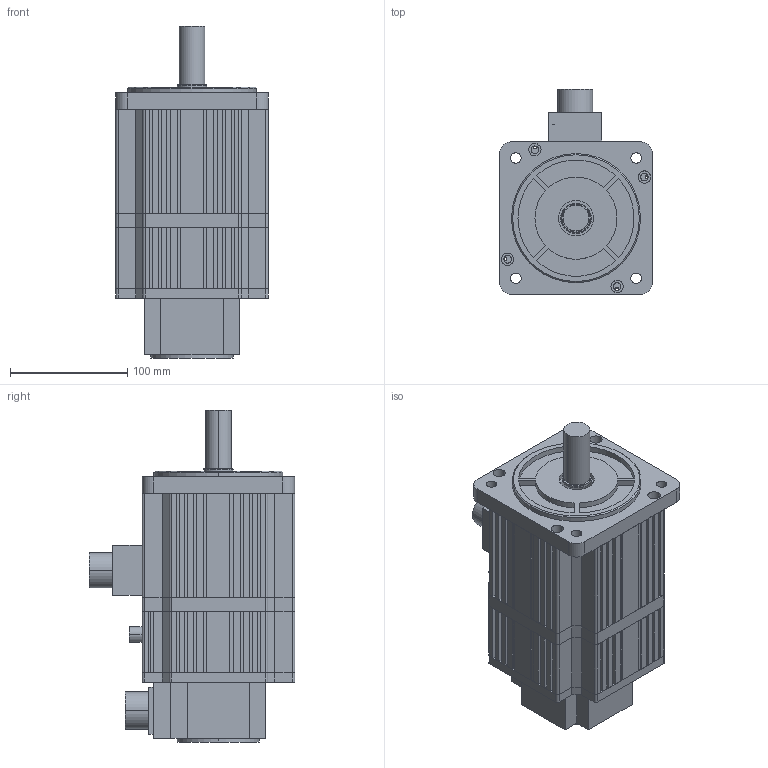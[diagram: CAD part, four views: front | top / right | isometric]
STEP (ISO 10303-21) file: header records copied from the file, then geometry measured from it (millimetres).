
FILE_DESCRIPTION (( 'STEP AP203' ), '1' );
FILE_NAME ('130-04025(湍惕掅).STEP', '2020-03-09T13:55:26', ( '' ), ( '' ), 'SwSTEP 2.0', 'SolidWorks 2016', '' );
FILE_SCHEMA (( 'CONFIG_CONTROL_DESIGN' ));
Length unit declared in the file: millimetre
Products named in the file (12): 130瑤脣; 130粣; 130-04025(湍惕掅); 130隅赽 4籟; 130侜督惕掅傷裔; 130惕掅儂褲; 130晤鎢ん; 130侜督ヶ裔; 130侜督綴裔; 130惕掅蚾饜极; 130瑤脣2; 惕掅芛
Assembly tree (11 placements, depth 3):
  130-04025(湍惕掅)
    130隅赽 4籟
    130侜督ヶ裔
    130侜督綴裔
    130晤鎢ん
    130粣
    130瑤脣2
    130瑤脣
    130惕掅蚾饜极
      130惕掅儂褲
      130侜督惕掅傷裔
      惕掅芛
Bounding box: 130 x 175 x 283 mm (x, y, z)
Volume: 1269601.4 mm3; surface area: 385333 mm2
Topology: 14 solids, 14 shells, 826 faces, 2129 edges, 1396 vertices
Faces by surface type: plane 557, cylinder 249, cone 10, bspline 8, torus 2
Entity records: 26452 total; most frequent: CARTESIAN_POINT 4512, DIRECTION 4315, ORIENTED_EDGE 4242, EDGE_CURVE 2121, LINE 1537, VECTOR 1537, VERTEX_POINT 1396, AXIS2_PLACEMENT_3D 1389
